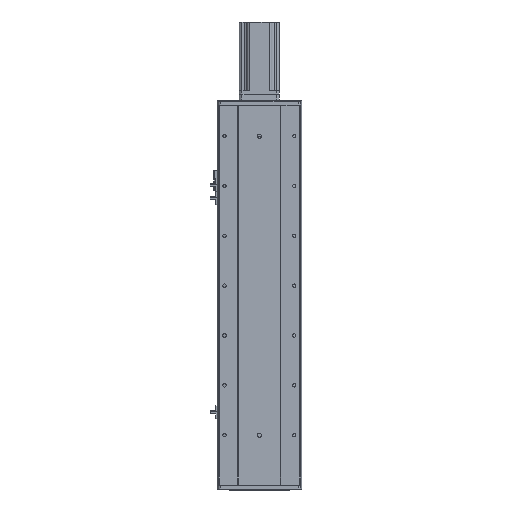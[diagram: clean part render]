
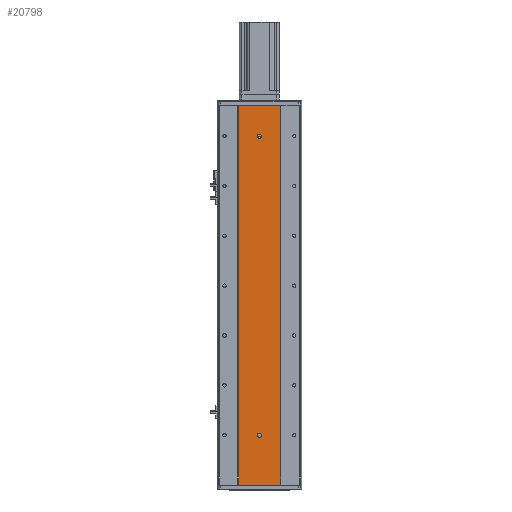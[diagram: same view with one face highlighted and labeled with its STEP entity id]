
A CAD part, front view. The second image highlights one B-rep face of the part: STEP entity #20798.
In plain terms, the highlighted planar face has unit normal (0, -1, 0).
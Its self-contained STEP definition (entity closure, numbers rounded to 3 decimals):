
#6135 = CARTESIAN_POINT ( 'NONE',  ( 5085.384, 335.574, 762. ) ) ;
#6147 = PLANE ( 'NONE',  #14512 ) ;
#6152 = DIRECTION ( 'NONE',  ( 0., 1., 0. ) ) ;
#6160 = DIRECTION ( 'NONE',  ( -1., 0., 0. ) ) ;
#9058 = AXIS2_PLACEMENT_3D ( 'NONE', #34357, #34369, #34348 ) ;
#9153 = AXIS2_PLACEMENT_3D ( 'NONE', #34547, #34533, #34534 ) ;
#9795 = AXIS2_PLACEMENT_3D ( 'NONE', #46954, #46922, #46929 ) ;
#9840 = AXIS2_PLACEMENT_3D ( 'NONE', #46915, #46921, #46920 ) ;
#10693 = VERTEX_POINT ( 'NONE', #42554 ) ;
#10700 = VERTEX_POINT ( 'NONE', #42525 ) ;
#10785 = VERTEX_POINT ( 'NONE', #42623 ) ;
#10857 = VERTEX_POINT ( 'NONE', #42650 ) ;
#11610 = VERTEX_POINT ( 'NONE', #42481 ) ;
#11656 = VERTEX_POINT ( 'NONE', #64879 ) ;
#14512 = AXIS2_PLACEMENT_3D ( 'NONE', #6135, #6152, #6160 ) ;
#20798 = ADVANCED_FACE ( 'NONE', ( #35924, #35931, #35952 ), #6147, .F. ) ;
#23885 = EDGE_CURVE ( 'NONE', #11656, #11610, #24956, .T. ) ;
#23948 = EDGE_CURVE ( 'NONE', #27330, #27331, #25009, .T. ) ;
#24034 = EDGE_CURVE ( 'NONE', #10693, #10785, #25197, .T. ) ;
#24067 = EDGE_CURVE ( 'NONE', #11610, #27331, #25204, .T. ) ;
#24102 = EDGE_CURVE ( 'NONE', #10700, #10857, #25271, .T. ) ;
#24105 = EDGE_CURVE ( 'NONE', #11656, #27330, #25319, .T. ) ;
#24955 = VECTOR ( 'NONE', #33952, 1000. ) ;
#24956 = LINE ( 'NONE', #33929, #24955 ) ;
#25009 = LINE ( 'NONE', #34097, #25048 ) ;
#25048 = VECTOR ( 'NONE', #34105, 1000. ) ;
#25197 = CIRCLE ( 'NONE', #9058, 4. ) ;
#25204 = LINE ( 'NONE', #34439, #25209 ) ;
#25209 = VECTOR ( 'NONE', #34445, 1000. ) ;
#25271 = CIRCLE ( 'NONE', #9153, 4. ) ;
#25272 = VECTOR ( 'NONE', #34522, 1000. ) ;
#25319 = LINE ( 'NONE', #34516, #25272 ) ;
#27330 = VERTEX_POINT ( 'NONE', #37065 ) ;
#27331 = VERTEX_POINT ( 'NONE', #37053 ) ;
#31282 = EDGE_LOOP ( 'NONE', ( #50812, #50856 ) ) ;
#31303 = EDGE_LOOP ( 'NONE', ( #50909, #50898, #50805, #50913 ) ) ;
#31326 = EDGE_LOOP ( 'NONE', ( #50846, #50828 ) ) ;
#33929 = CARTESIAN_POINT ( 'NONE',  ( 5085.384, 335.574, 762. ) ) ;
#33952 = DIRECTION ( 'NONE',  ( 1., 0., 0. ) ) ;
#34097 = CARTESIAN_POINT ( 'NONE',  ( 5085.384, 335.574, 0. ) ) ;
#34105 = DIRECTION ( 'NONE',  ( 1., 0., 0. ) ) ;
#34348 = DIRECTION ( 'NONE',  ( -1., 0., 0. ) ) ;
#34357 = CARTESIAN_POINT ( 'NONE',  ( 5126.969, 335.574, 700. ) ) ;
#34369 = DIRECTION ( 'NONE',  ( 0., 1., 0. ) ) ;
#34439 = CARTESIAN_POINT ( 'NONE',  ( 5168.555, 335.574, 762. ) ) ;
#34445 = DIRECTION ( 'NONE',  ( 0., 0., -1. ) ) ;
#34516 = CARTESIAN_POINT ( 'NONE',  ( 5085.384, 335.574, 762. ) ) ;
#34522 = DIRECTION ( 'NONE',  ( 0., 0., -1. ) ) ;
#34533 = DIRECTION ( 'NONE',  ( 0., 1., 0. ) ) ;
#34534 = DIRECTION ( 'NONE',  ( -1., 0., 0. ) ) ;
#34547 = CARTESIAN_POINT ( 'NONE',  ( 5126.969, 335.574, 100. ) ) ;
#35924 = FACE_BOUND ( 'NONE', #31282, .T. ) ;
#35931 = FACE_BOUND ( 'NONE', #31326, .T. ) ;
#35952 = FACE_OUTER_BOUND ( 'NONE', #31303, .T. ) ;
#37053 = CARTESIAN_POINT ( 'NONE',  ( 5168.555, 335.574, 0. ) ) ;
#37065 = CARTESIAN_POINT ( 'NONE',  ( 5085.384, 335.574, 0. ) ) ;
#42481 = CARTESIAN_POINT ( 'NONE',  ( 5168.555, 335.574, 762. ) ) ;
#42525 = CARTESIAN_POINT ( 'NONE',  ( 5126.969, 335.574, 104. ) ) ;
#42554 = CARTESIAN_POINT ( 'NONE',  ( 5126.969, 335.574, 704. ) ) ;
#42623 = CARTESIAN_POINT ( 'NONE',  ( 5126.969, 335.574, 696. ) ) ;
#42650 = CARTESIAN_POINT ( 'NONE',  ( 5126.969, 335.574, 96. ) ) ;
#46915 = CARTESIAN_POINT ( 'NONE',  ( 5126.969, 335.574, 100. ) ) ;
#46920 = DIRECTION ( 'NONE',  ( -1., 0., 0. ) ) ;
#46921 = DIRECTION ( 'NONE',  ( 0., 1., 0. ) ) ;
#46922 = DIRECTION ( 'NONE',  ( 0., 1., 0. ) ) ;
#46929 = DIRECTION ( 'NONE',  ( -1., 0., 0. ) ) ;
#46954 = CARTESIAN_POINT ( 'NONE',  ( 5126.969, 335.574, 700. ) ) ;
#50805 = ORIENTED_EDGE ( 'NONE', *, *, #23885, .F. ) ;
#50812 = ORIENTED_EDGE ( 'NONE', *, *, #61034, .T. ) ;
#50828 = ORIENTED_EDGE ( 'NONE', *, *, #24102, .T. ) ;
#50846 = ORIENTED_EDGE ( 'NONE', *, *, #61040, .T. ) ;
#50856 = ORIENTED_EDGE ( 'NONE', *, *, #24034, .T. ) ;
#50898 = ORIENTED_EDGE ( 'NONE', *, *, #24067, .F. ) ;
#50909 = ORIENTED_EDGE ( 'NONE', *, *, #23948, .T. ) ;
#50913 = ORIENTED_EDGE ( 'NONE', *, *, #24105, .T. ) ;
#59471 = CIRCLE ( 'NONE', #9795, 4. ) ;
#59552 = CIRCLE ( 'NONE', #9840, 4. ) ;
#61034 = EDGE_CURVE ( 'NONE', #10785, #10693, #59471, .T. ) ;
#61040 = EDGE_CURVE ( 'NONE', #10857, #10700, #59552, .T. ) ;
#64879 = CARTESIAN_POINT ( 'NONE',  ( 5085.384, 335.574, 762. ) ) ;
